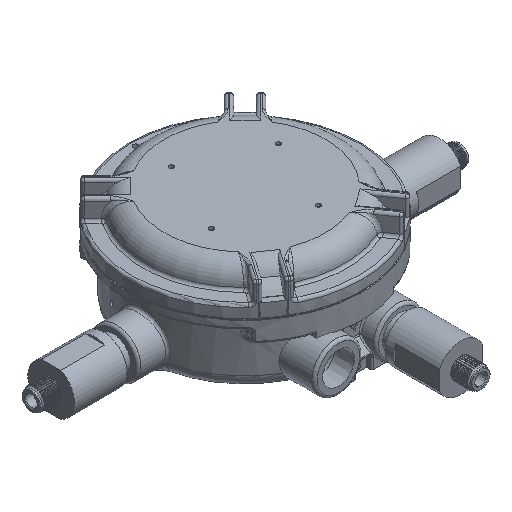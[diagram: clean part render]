
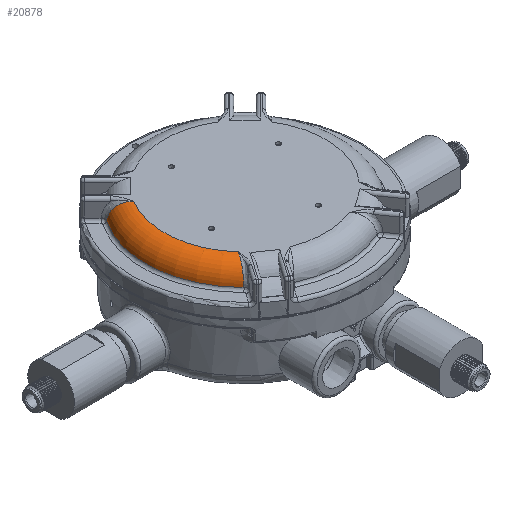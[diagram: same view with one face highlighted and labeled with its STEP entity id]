
A CAD part, isometric view. The second image highlights one B-rep face of the part: STEP entity #20878.
In plain terms, the highlighted toroidal (fillet/blend) face has major radius 60.5 mm and minor radius 14 mm.
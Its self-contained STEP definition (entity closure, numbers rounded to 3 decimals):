
#18668 = VERTEX_POINT('',#18669);
#18669 = CARTESIAN_POINT('',(-51.518,31.719,78.));
#18682 = EDGE_CURVE('',#18683,#18668,#18685,.T.);
#18683 = VERTEX_POINT('',#18684);
#18684 = CARTESIAN_POINT('',(-45.228,-40.183,78.));
#18685 = CIRCLE('',#18686,60.5);
#18686 = AXIS2_PLACEMENT_3D('',#18687,#18688,#18689);
#18687 = CARTESIAN_POINT('',(0.,0.,78.));
#18688 = DIRECTION('',(0.,0.,-1.));
#18689 = DIRECTION('',(-0.996,-0.087,-0.));
#20878 = ADVANCED_FACE('',(#20879),#20946,.T.);
#20879 = FACE_BOUND('',#20880,.T.);
#20880 = EDGE_LOOP('',(#20881,#20882,#20918,#20927,#20938));
#20881 = ORIENTED_EDGE('',*,*,#18682,.T.);
#20882 = ORIENTED_EDGE('',*,*,#20883,.F.);
#20883 = EDGE_CURVE('',#20884,#18668,#20886,.T.);
#20884 = VERTEX_POINT('',#20885);
#20885 = CARTESIAN_POINT('',(-61.31,42.276,64.875));
#20886 = B_SPLINE_CURVE_WITH_KNOTS('',3,(#20887,#20888,#20889,#20890,
    #20891,#20892,#20893,#20894,#20895,#20896,#20897,#20898,#20899,
    #20900,#20901,#20902,#20903,#20904,#20905,#20906,#20907,#20908,
    #20909,#20910,#20911,#20912,#20913,#20914,#20915,#20916,#20917),
  .UNSPECIFIED.,.F.,.F.,(4,3,3,3,3,3,3,3,3,3,4),(0.106,
    0.376,0.469,0.647,0.838,
    1.299,1.577,1.962,2.13,
    2.641,2.684),.UNSPECIFIED.);
#20887 = CARTESIAN_POINT('',(-61.31,42.276,
    64.875));
#20888 = CARTESIAN_POINT('',(-61.277,42.241,
    65.62));
#20889 = CARTESIAN_POINT('',(-61.202,42.162,
    66.367));
#20890 = CARTESIAN_POINT('',(-61.086,42.038,
    67.097));
#20891 = CARTESIAN_POINT('',(-61.046,41.996,
    67.346));
#20892 = CARTESIAN_POINT('',(-61.002,41.949,
    67.593));
#20893 = CARTESIAN_POINT('',(-60.953,41.897,
    67.838));
#20894 = CARTESIAN_POINT('',(-60.858,41.796,
    68.312));
#20895 = CARTESIAN_POINT('',(-60.746,41.678,
    68.777));
#20896 = CARTESIAN_POINT('',(-60.618,41.542,
    69.231));
#20897 = CARTESIAN_POINT('',(-60.481,41.396,
    69.716));
#20898 = CARTESIAN_POINT('',(-60.325,41.23,
    70.193));
#20899 = CARTESIAN_POINT('',(-60.149,41.043,
    70.655));
#20900 = CARTESIAN_POINT('',(-59.725,40.592,
    71.772));
#20901 = CARTESIAN_POINT('',(-59.19,40.022,
    72.808));
#20902 = CARTESIAN_POINT('',(-58.581,39.37,
    73.711));
#20903 = CARTESIAN_POINT('',(-58.215,38.979,
    74.255));
#20904 = CARTESIAN_POINT('',(-57.815,38.551,
    74.76));
#20905 = CARTESIAN_POINT('',(-57.39,38.094,
    75.214));
#20906 = CARTESIAN_POINT('',(-56.798,37.459,
    75.846));
#20907 = CARTESIAN_POINT('',(-56.156,36.768,
    76.379));
#20908 = CARTESIAN_POINT('',(-55.49,36.048,
    76.8));
#20909 = CARTESIAN_POINT('',(-55.2,35.735,
    76.983));
#20910 = CARTESIAN_POINT('',(-54.903,35.413,
    77.147));
#20911 = CARTESIAN_POINT('',(-54.6,35.085,
    77.29));
#20912 = CARTESIAN_POINT('',(-53.682,34.089,
    77.723));
#20913 = CARTESIAN_POINT('',(-52.715,33.034,
    77.961));
#20914 = CARTESIAN_POINT('',(-51.761,31.986,
    77.996));
#20915 = CARTESIAN_POINT('',(-51.68,31.897,
    77.999));
#20916 = CARTESIAN_POINT('',(-51.599,31.808,78.));
#20917 = CARTESIAN_POINT('',(-51.518,31.719,78.));
#20918 = ORIENTED_EDGE('',*,*,#20919,.F.);
#20919 = EDGE_CURVE('',#20920,#20884,#20922,.T.);
#20920 = VERTEX_POINT('',#20921);
#20921 = CARTESIAN_POINT('',(-53.037,-52.28,64.875));
#20922 = CIRCLE('',#20923,74.473);
#20923 = AXIS2_PLACEMENT_3D('',#20924,#20925,#20926);
#20924 = CARTESIAN_POINT('',(0.,0.,64.875));
#20925 = DIRECTION('',(0.,0.,-1.));
#20926 = DIRECTION('',(-0.996,-0.087,-0.));
#20927 = ORIENTED_EDGE('',*,*,#20928,.F.);
#20928 = EDGE_CURVE('',#20929,#20920,#20931,.T.);
#20929 = VERTEX_POINT('',#20930);
#20930 = CARTESIAN_POINT('',(-50.461,-48.339,
    74.395));
#20931 = B_SPLINE_CURVE_WITH_KNOTS('',3,(#20932,#20933,#20934,#20935,
    #20936,#20937),.UNSPECIFIED.,.F.,.F.,(4,1,1,4),(-8.164,
    -7.952,-7.213,-6.851),.UNSPECIFIED.);
#20932 = CARTESIAN_POINT('',(-50.46,-48.339,
    74.394));
#20933 = CARTESIAN_POINT('',(-50.701,-48.709,
    74.006));
#20934 = CARTESIAN_POINT('',(-51.722,-50.277,
    72.147));
#20935 = CARTESIAN_POINT('',(-52.713,-51.786,
    68.898));
#20936 = CARTESIAN_POINT('',(-53.002,-52.227,
    65.874));
#20937 = CARTESIAN_POINT('',(-53.037,-52.28,
    64.875));
#20938 = ORIENTED_EDGE('',*,*,#20939,.F.);
#20939 = EDGE_CURVE('',#18683,#20929,#20940,.T.);
#20940 = B_SPLINE_CURVE_WITH_KNOTS('',3,(#20941,#20942,#20943,#20944,
    #20945),.UNSPECIFIED.,.F.,.F.,(4,1,4),(-9.428,
    -8.69,-8.164),.UNSPECIFIED.);
#20941 = CARTESIAN_POINT('',(-45.228,-40.183,78.));
#20942 = CARTESIAN_POINT('',(-46.326,-41.922,78.));
#20943 = CARTESIAN_POINT('',(-48.231,-44.903,
    77.27));
#20944 = CARTESIAN_POINT('',(-49.862,-47.419,
    75.357));
#20945 = CARTESIAN_POINT('',(-50.46,-48.339,
    74.394));
#20946 = TOROIDAL_SURFACE('',#20947,60.5,14.);
#20947 = AXIS2_PLACEMENT_3D('',#20948,#20949,#20950);
#20948 = CARTESIAN_POINT('',(0.,0.,64.));
#20949 = DIRECTION('',(0.,0.,-1.));
#20950 = DIRECTION('',(-1.,0.,0.));
